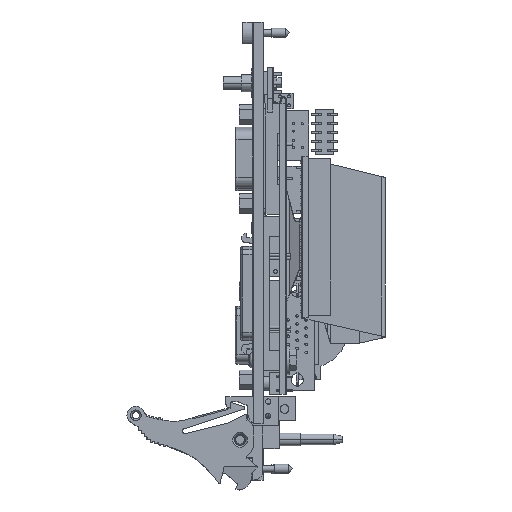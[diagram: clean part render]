
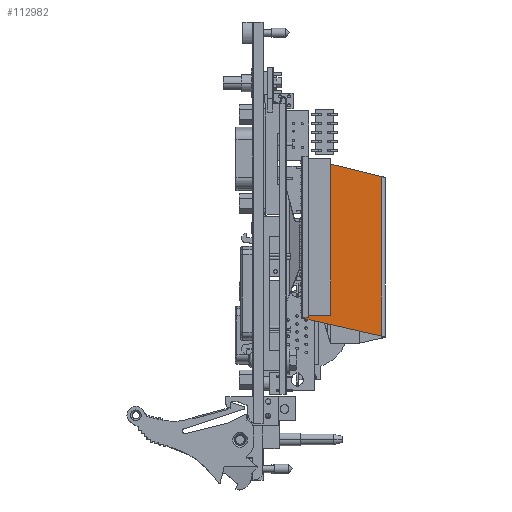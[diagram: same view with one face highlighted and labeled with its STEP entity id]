
A CAD part, top view. The second image highlights one B-rep face of the part: STEP entity #112982.
In plain terms, the highlighted planar face has unit normal (0, 0, 1).
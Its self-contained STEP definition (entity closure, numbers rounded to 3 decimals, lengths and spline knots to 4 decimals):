
#31683=DIRECTION('',(0.,1.,0.));
#31684=VECTOR('',#31683,1.7807);
#31685=CARTESIAN_POINT('',(0.367,-2.7221,
0.2853));
#31686=LINE('',#31685,#31684);
#31687=DIRECTION('',(0.971,-0.238,0.));
#31688=VECTOR('',#31687,0.8735);
#31689=CARTESIAN_POINT('',(0.367,-0.9413,
0.2853));
#31690=LINE('',#31689,#31688);
#31691=DIRECTION('',(-0.975,0.221,0.));
#31692=VECTOR('',#31691,0.8699);
#31693=CARTESIAN_POINT('',(1.2154,-2.9141,
0.2853));
#31694=LINE('',#31693,#31692);
#31695=DIRECTION('',(0.,1.,0.));
#31696=VECTOR('',#31695,1.765);
#31697=CARTESIAN_POINT('',(1.2154,-2.9141,
0.2853));
#31698=LINE('',#31697,#31696);
#61342=CARTESIAN_POINT('',(1.2154,-2.9141,
0.2853));
#61343=CARTESIAN_POINT('',(0.367,-2.7221,
0.2853));
#61344=VERTEX_POINT('',#61342);
#61345=VERTEX_POINT('',#61343);
#61422=CARTESIAN_POINT('',(0.367,-0.9413,
0.2853));
#61423=CARTESIAN_POINT('',(1.2154,-1.1491,
0.2853));
#61424=VERTEX_POINT('',#61422);
#61425=VERTEX_POINT('',#61423);
#112970=CARTESIAN_POINT('',(0.7912,-1.9277,
0.2853));
#112971=DIRECTION('',(0.,0.,1.));
#112972=DIRECTION('',(0.,1.,0.));
#112973=AXIS2_PLACEMENT_3D('',#112970,#112971,#112972);
#112974=PLANE('',#112973);
#112975=ORIENTED_EDGE('',*,*,#112964,.T.);
#112976=ORIENTED_EDGE('',*,*,#112618,.T.);
#112978=ORIENTED_EDGE('',*,*,#112977,.F.);
#112979=ORIENTED_EDGE('',*,*,#112176,.T.);
#112980=EDGE_LOOP('',(#112975,#112976,#112978,#112979));
#112981=FACE_OUTER_BOUND('',#112980,.F.);
#112982=ADVANCED_FACE('',(#112981),#112974,.T.);
#112176=EDGE_CURVE('',#61344,#61345,#31694,.T.);
#112618=EDGE_CURVE('',#61424,#61425,#31690,.T.);
#112964=EDGE_CURVE('',#61345,#61424,#31686,.T.);
#112977=EDGE_CURVE('',#61344,#61425,#31698,.T.);
